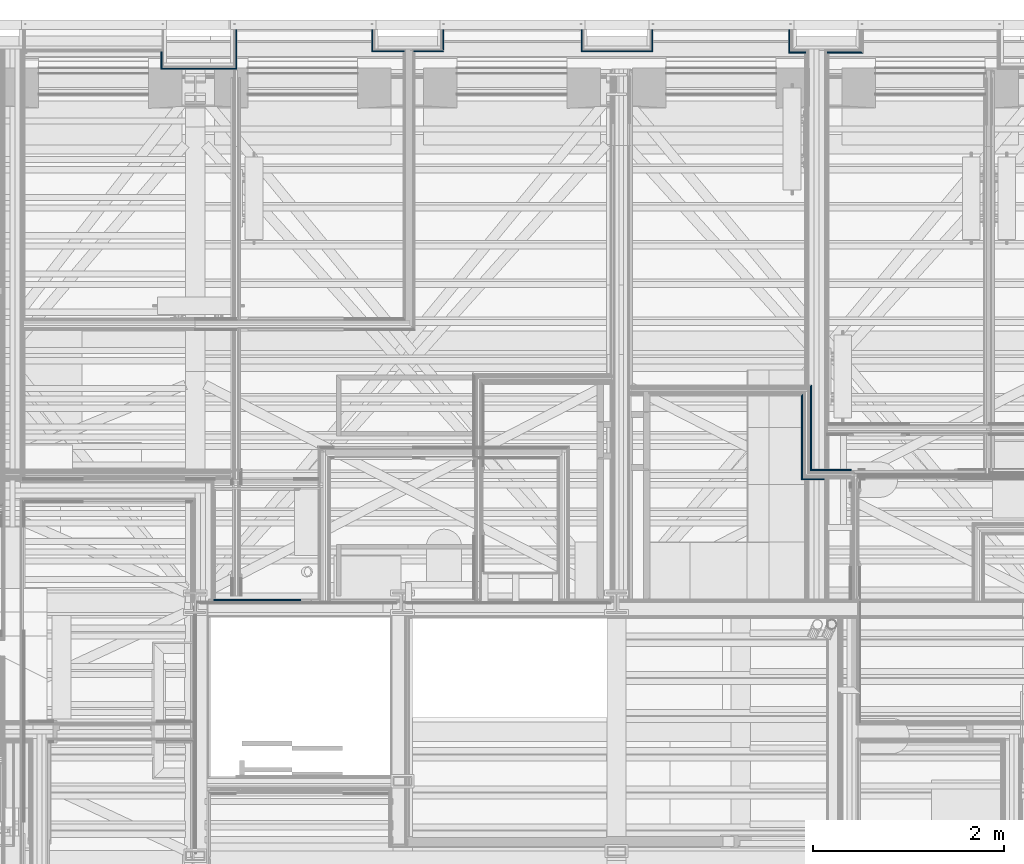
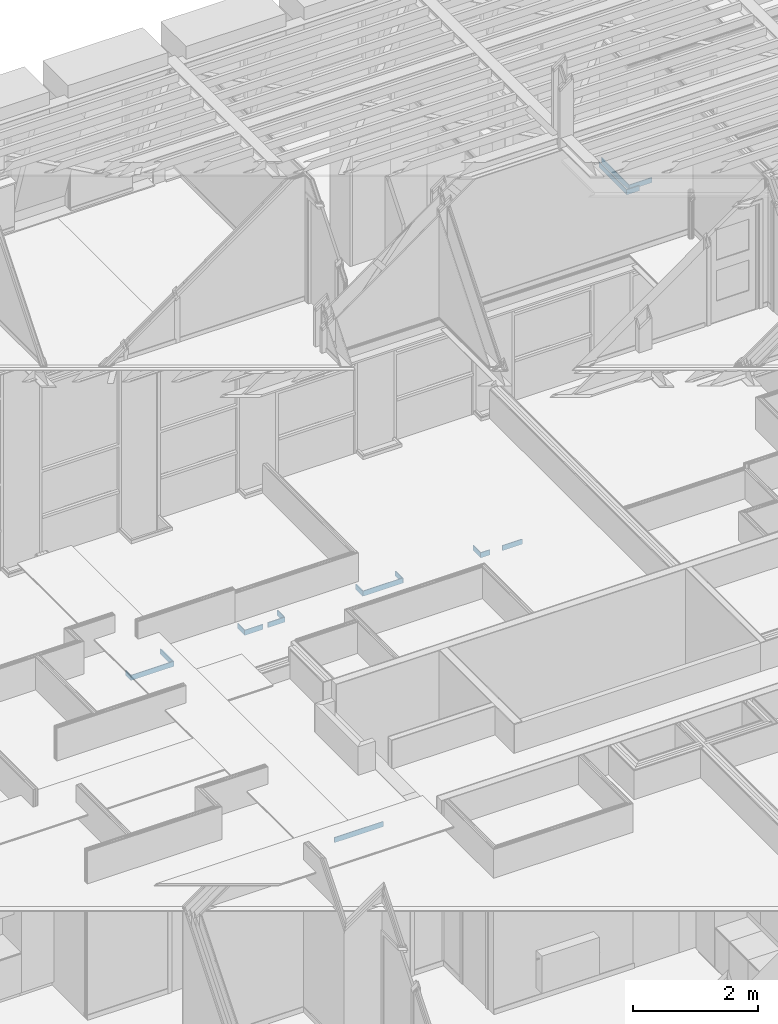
# One storey, part 74 of 183: 18 building element parts, 14 elements without a shape of their own.
"""IFC2X3 building model written with IfcOpenShell, lengths in metres."""

from ifc_helpers import new_model, entity, si_unit, converted_unit, derived_unit, money_unit, direction, frame, frame_2d, origin_with_axes, place, context, subcontext, project, spatial, polyline, rectangle, outline, extrude, material, type_object, element, aggregate, save


model = new_model("IFC2X3")

# Units and contexts
model_context = context("Model", 3, precision=1e-05, world=origin_with_axes(), true_north=direction((0.0, 1.0)))
body_context = subcontext(model_context, "Body", "Model", "MODEL_VIEW", scale=1.0)
ifc_project = project(units=[si_unit("LENGTHUNIT", "METRE"), si_unit("AREAUNIT", "SQUARE_METRE"), si_unit("VOLUMEUNIT", "CUBIC_METRE"), si_unit("ABSORBEDDOSEUNIT", "GRAY"), si_unit("AMOUNTOFSUBSTANCEUNIT", "MOLE"), si_unit("DOSEEQUIVALENTUNIT", "SIEVERT"), si_unit("ELECTRICCAPACITANCEUNIT", "FARAD"), si_unit("ELECTRICCHARGEUNIT", "COULOMB"), si_unit("ELECTRICCONDUCTANCEUNIT", "SIEMENS"), si_unit("ELECTRICCURRENTUNIT", "AMPERE"), si_unit("ELECTRICRESISTANCEUNIT", "OHM"), si_unit("ELECTRICVOLTAGEUNIT", "VOLT"), si_unit("ENERGYUNIT", "JOULE"), si_unit("FORCEUNIT", "NEWTON"), si_unit("FREQUENCYUNIT", "HERTZ"), si_unit("ILLUMINANCEUNIT", "LUX"), si_unit("INDUCTANCEUNIT", "HENRY"), si_unit("LUMINOUSFLUXUNIT", "LUMEN"), si_unit("LUMINOUSINTENSITYUNIT", "CANDELA"), si_unit("MAGNETICFLUXDENSITYUNIT", "TESLA"), si_unit("MAGNETICFLUXUNIT", "WEBER"), si_unit("MASSUNIT", "GRAM"), converted_unit("PLANEANGLEUNIT", "degree", entity("IfcReal", 0.0174532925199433), si_unit("PLANEANGLEUNIT", "RADIAN"), dimensions=[0, 0, 0, 0, 0, 0, 0]), si_unit("POWERUNIT", "WATT"), si_unit("PRESSUREUNIT", "PASCAL"), si_unit("RADIOACTIVITYUNIT", "BECQUEREL"), si_unit("SOLIDANGLEUNIT", "STERADIAN"), si_unit("THERMODYNAMICTEMPERATUREUNIT", "KELVIN"), si_unit("TIMEUNIT", "SECOND"), derived_unit("ACCELERATIONUNIT", [(si_unit("LENGTHUNIT", "METRE"), 1), (si_unit("TIMEUNIT", "SECOND"), -2)]), derived_unit("ANGULARVELOCITYUNIT", [(converted_unit("PLANEANGLEUNIT", "degree", entity("IfcReal", 0.0174532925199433), si_unit("PLANEANGLEUNIT", "RADIAN"), dimensions=[0, 0, 0, 0, 0, 0, 0]), 1), (si_unit("TIMEUNIT", "SECOND"), -1)]), derived_unit("CURVATUREUNIT", [(converted_unit("PLANEANGLEUNIT", "degree", entity("IfcReal", 0.0174532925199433), si_unit("PLANEANGLEUNIT", "RADIAN"), dimensions=[0, 0, 0, 0, 0, 0, 0]), 1), (si_unit("LENGTHUNIT", "METRE"), -1)]), derived_unit("DYNAMICVISCOSITYUNIT", [(si_unit("PRESSUREUNIT", "PASCAL"), 1), (si_unit("TIMEUNIT", "SECOND"), 1)]), derived_unit("HEATFLUXDENSITYUNIT", [(si_unit("POWERUNIT", "WATT"), 1), (si_unit("LENGTHUNIT", "METRE"), -2)]), derived_unit("HEATINGVALUEUNIT", [(si_unit("ENERGYUNIT", "JOULE"), 1), (si_unit("MASSUNIT", "GRAM"), -1)]), derived_unit("INTEGERCOUNTRATEUNIT", [(si_unit("TIMEUNIT", "SECOND"), -1)]), derived_unit("IONCONCENTRATIONUNIT", [(si_unit("MASSUNIT", "GRAM"), 1), (si_unit("VOLUMEUNIT", "CUBIC_METRE"), -1)]), derived_unit("ISOTHERMALMOISTURECAPACITYUNIT", [(si_unit("VOLUMEUNIT", "CUBIC_METRE"), 1), (si_unit("MASSUNIT", "GRAM"), -1)]), derived_unit("KINEMATICVISCOSITYUNIT", [(si_unit("AREAUNIT", "SQUARE_METRE"), 1), (si_unit("TIMEUNIT", "SECOND"), -1)]), derived_unit("LINEARFORCEUNIT", [(si_unit("FORCEUNIT", "NEWTON"), 1), (si_unit("LENGTHUNIT", "METRE"), -1)]), derived_unit("LINEARMOMENTUNIT", [(si_unit("FORCEUNIT", "NEWTON"), 1), (si_unit("LENGTHUNIT", "METRE"), -1)]), derived_unit("LINEARSTIFFNESSUNIT", [(si_unit("FORCEUNIT", "NEWTON"), 1), (si_unit("LENGTHUNIT", "METRE"), -1)]), derived_unit("LINEARVELOCITYUNIT", [(si_unit("LENGTHUNIT", "METRE"), 1), (si_unit("TIMEUNIT", "SECOND"), -1)]), derived_unit("LUMINOUSINTENSITYDISTRIBUTIONUNIT", [(si_unit("LUMINOUSINTENSITYUNIT", "CANDELA"), 1), (si_unit("LUMINOUSFLUXUNIT", "LUMEN"), -1)]), derived_unit("MASSDENSITYUNIT", [(si_unit("MASSUNIT", "GRAM"), 1), (si_unit("VOLUMEUNIT", "CUBIC_METRE"), -1)]), derived_unit("MASSFLOWRATEUNIT", [(si_unit("MASSUNIT", "GRAM"), 1), (si_unit("TIMEUNIT", "SECOND"), -1)]), derived_unit("MASSPERLENGTHUNIT", [(si_unit("MASSUNIT", "GRAM"), 1), (si_unit("LENGTHUNIT", "METRE"), -1)]), derived_unit("MODULUSOFELASTICITYUNIT", [(si_unit("FORCEUNIT", "NEWTON"), 1), (si_unit("AREAUNIT", "SQUARE_METRE"), -1)]), derived_unit("MODULUSOFLINEARSUBGRADEREACTIONUNIT", [(si_unit("FORCEUNIT", "NEWTON"), 1), (si_unit("LENGTHUNIT", "METRE"), -2)]), derived_unit("MODULUSOFROTATIONALSUBGRADEREACTIONUNIT", [(si_unit("FORCEUNIT", "NEWTON"), 1), (si_unit("LENGTHUNIT", "METRE"), 1)]), derived_unit("MODULUSOFSUBGRADEREACTIONUNIT", [(si_unit("FORCEUNIT", "NEWTON"), 1), (si_unit("VOLUMEUNIT", "CUBIC_METRE"), -1)]), derived_unit("MOISTUREDIFFUSIVITYUNIT", [(si_unit("VOLUMEUNIT", "CUBIC_METRE"), 1), (si_unit("TIMEUNIT", "SECOND"), -1)]), derived_unit("MOLECULARWEIGHTUNIT", [(si_unit("MASSUNIT", "GRAM"), 1), (si_unit("AMOUNTOFSUBSTANCEUNIT", "MOLE"), -1)]), derived_unit("PLANARFORCEUNIT", [(si_unit("FORCEUNIT", "NEWTON"), 1), (si_unit("LENGTHUNIT", "METRE"), -2)]), derived_unit("ROTATIONALFREQUENCYUNIT", [(si_unit("TIMEUNIT", "SECOND"), -1)]), derived_unit("ROTATIONALMASSUNIT", [(si_unit("MASSUNIT", "GRAM"), 1), (si_unit("LENGTHUNIT", "METRE"), 2)]), derived_unit("ROTATIONALSTIFFNESSUNIT", [(si_unit("FORCEUNIT", "NEWTON"), 1), (si_unit("LENGTHUNIT", "METRE"), 1), (converted_unit("PLANEANGLEUNIT", "degree", entity("IfcReal", 0.0174532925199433), si_unit("PLANEANGLEUNIT", "RADIAN"), dimensions=[0, 0, 0, 0, 0, 0, 0]), -1)]), derived_unit("SECTIONAREAINTEGRALUNIT", [(si_unit("LENGTHUNIT", "METRE"), 5)]), derived_unit("SECTIONMODULUSUNIT", [(si_unit("LENGTHUNIT", "METRE"), 3)]), derived_unit("SHEARMODULUSUNIT", [(si_unit("FORCEUNIT", "NEWTON"), 1), (si_unit("AREAUNIT", "SQUARE_METRE"), -1)]), derived_unit("SOUNDPOWERUNIT", [(si_unit("ENERGYUNIT", "JOULE"), 1), (si_unit("TIMEUNIT", "SECOND"), -1)]), derived_unit("SPECIFICHEATCAPACITYUNIT", [(si_unit("FORCEUNIT", "NEWTON"), 1), (si_unit("MASSUNIT", "GRAM"), -1), (si_unit("THERMODYNAMICTEMPERATUREUNIT", "KELVIN"), -1)]), derived_unit("TEMPERATUREGRADIENTUNIT", [(si_unit("THERMODYNAMICTEMPERATUREUNIT", "KELVIN"), 1), (si_unit("LENGTHUNIT", "METRE"), -1)]), derived_unit("THERMALADMITTANCEUNIT", [(si_unit("POWERUNIT", "WATT"), 1), (si_unit("AREAUNIT", "SQUARE_METRE"), -1), (si_unit("THERMODYNAMICTEMPERATUREUNIT", "KELVIN"), -1)]), derived_unit("THERMALCONDUCTANCEUNIT", [(si_unit("POWERUNIT", "WATT"), 1), (si_unit("LENGTHUNIT", "METRE"), -1), (si_unit("THERMODYNAMICTEMPERATUREUNIT", "KELVIN"), -1)]), derived_unit("THERMALEXPANSIONCOEFFICIENTUNIT", [(si_unit("THERMODYNAMICTEMPERATUREUNIT", "KELVIN"), -1)]), derived_unit("THERMALRESISTANCEUNIT", [(si_unit("AREAUNIT", "SQUARE_METRE"), 1), (si_unit("POWERUNIT", "WATT"), -1)]), derived_unit("THERMALTRANSMITTANCEUNIT", [(si_unit("POWERUNIT", "WATT"), 1), (si_unit("AREAUNIT", "SQUARE_METRE"), -1), (si_unit("THERMODYNAMICTEMPERATUREUNIT", "KELVIN"), -1)]), derived_unit("TORQUEUNIT", [(si_unit("FORCEUNIT", "NEWTON"), 1), (si_unit("LENGTHUNIT", "METRE"), 1)]), derived_unit("VAPORPERMEABILITYUNIT", [(si_unit("MASSUNIT", "GRAM"), 1), (si_unit("TIMEUNIT", "SECOND"), -1)]), derived_unit("VOLUMETRICFLOWRATEUNIT", [(si_unit("VOLUMEUNIT", "CUBIC_METRE"), 1), (si_unit("TIMEUNIT", "SECOND"), -1)]), derived_unit("WARPINGCONSTANTUNIT", [(si_unit("LENGTHUNIT", "METRE"), 6)]), derived_unit("WARPINGMOMENTUNIT", [(si_unit("FORCEUNIT", "NEWTON"), 1), (si_unit("LENGTHUNIT", "METRE"), 2)]), money_unit("GBP")], contexts=[model_context])

# Site, building, storey
site_placement = place(None, origin_with_axes())
site = spatial("IfcSite", under=ifc_project, at=site_placement, Name="Site", CompositionType="ELEMENT")
building_placement = place(site_placement, origin_with_axes())
building = spatial("IfcBuilding", under=site, at=building_placement, Name="Building01", CompositionType="ELEMENT")
storey_placement = place(building_placement, frame((0.0, 0.0, 5.15), z_axis=(0.0, 0.0, 1.0), x_axis=(1.0, 0.0, 0.0)))
storey = spatial("IfcBuildingStorey", under=building, at=storey_placement, Name="1F", CompositionType="ELEMENT", Elevation=5.15)

# Wall, building element part
wall_type_1 = type_object("IfcWallType", Name="SHE_A-Walls_Type03a_BlockworkWall_170mm", PredefinedType="NOTDEFINED")
wall_1_placement = place(storey_placement, frame((17.75, 8.805, 0.0), z_axis=(0.0, 0.0, 1.0), x_axis=(-1.0, 0.0, 0.0)))
wall_1 = element("IfcWall", 1, at=wall_1_placement, inside=storey, type_object=wall_type_1, Name="4B", ObjectType="SHE_A-Walls_Type03a_BlockworkWall_170mm")
ifc_material = material(Name="A_BSUK_Walls_Timber")
building_element_part_1_placement = place(wall_1_placement, origin_with_axes())
building_element_part_1 = element("IfcBuildingElementPart", 2, at=building_element_part_1_placement, material=ifc_material, Name="4", context=body_context, shape_type="SweptSolid", body=[
    extrude(rectangle(XDim=0.908871, YDim=0.015, at=frame_2d((8.010565, -0.0225), x_axis=(-1.0, 0.0))), frame((0.0, 0.0, 0.015), z_axis=(0.0, 0.0, 1.0), x_axis=(1.0, 0.0, 0.0)), (0.0, 0.0, 1.0), 0.1),
])
aggregate(wall_1, [building_element_part_1])

wall_type_2 = type_object("IfcWallType", Name="SHE_A-Walls_Type06f_ExternalWallInsulation_48+15mm", PredefinedType="NOTDEFINED")
wall_2_placement = place(storey_placement, frame((15.365, 14.612, 0.0), z_axis=(0.0, 0.0, 1.0), x_axis=(0.0, 1.0, 0.0)))
wall_2 = element("IfcWall", 3, at=wall_2_placement, inside=storey, type_object=wall_type_2, Name="6F", ObjectType="SHE_A-Walls_Type06f_ExternalWallInsulation_48+15mm")
building_element_part_2_placement = place(wall_2_placement, origin_with_axes())
building_element_part_2 = element("IfcBuildingElementPart", 4, at=building_element_part_2_placement, material=ifc_material, Name="4", context=body_context, shape_type="SweptSolid", body=[
    extrude(outline(polyline([(-0.06, 0.06), (-0.045, 0.045), (0.188, 0.045), (0.188, 0.06), (-0.06, 0.06)])), frame((0.0, 0.0, 0.015), z_axis=(0.0, 0.0, 1.0), x_axis=(1.0, 0.0, 0.0)), (0.0, 0.0, 1.0), 0.1),
])
aggregate(wall_2, [building_element_part_2])

# Wall, building element parts
wall_3_placement = place(storey_placement, frame((16.025, 14.612, 0.0), z_axis=(0.0, 0.0, 1.0), x_axis=(-1.0, 0.0, 0.0)))
wall_3 = element("IfcWall", 5, at=wall_3_placement, inside=storey, type_object=wall_type_2, Name="6F", ObjectType="SHE_A-Walls_Type06f_ExternalWallInsulation_48+15mm")
placement_1 = place(wall_3_placement, origin_with_axes())
building_element_part_3 = element("IfcBuildingElementPart", 6, at=placement_1, material=ifc_material, Name="6", context=body_context, shape_type="SweptSolid", body=[
    extrude(outline(polyline([(-0.06, 0.06), (-0.045, 0.045), (0.316868, 0.045), (0.316868, 0.06), (-0.06, 0.06)])), frame((0.0, 0.0, 0.015), z_axis=(0.0, 0.0, 1.0), x_axis=(1.0, 0.0, 0.0)), (0.0, 0.0, 1.0), 0.1),
])
building_element_part_4 = element("IfcBuildingElementPart", 7, at=placement_1, material=ifc_material, Name="7", context=body_context, shape_type="SweptSolid", body=[
    extrude(outline(polyline([(0.72, 0.06), (0.541868, 0.06), (0.541868, 0.045), (0.705, 0.045), (0.72, 0.06)])), frame((0.0, 0.0, 0.015), z_axis=(0.0, 0.0, 1.0), x_axis=(1.0, 0.0, 0.0)), (0.0, 0.0, 1.0), 0.1),
])
aggregate(wall_3, [building_element_part_3, building_element_part_4])

# Wall, building element part
wall_type_3 = type_object("IfcWallType", Name="SHE_A-Walls_Type06d_ExternalWallInsulation_48mm", PredefinedType="NOTDEFINED")
wall_4_placement = place(storey_placement, frame((13.817, 14.8, 0.0), z_axis=(0.0, 0.0, 1.0), x_axis=(0.0, -1.0, 0.0)))
wall_4 = element("IfcWall", 8, at=wall_4_placement, inside=storey, type_object=wall_type_3, Name="6D", ObjectType="SHE_A-Walls_Type06d_ExternalWallInsulation_48mm")
building_element_part_5_placement = place(wall_4_placement, origin_with_axes())
building_element_part_5 = element("IfcBuildingElementPart", 9, at=building_element_part_5_placement, material=ifc_material, Name="3", context=body_context, shape_type="SweptSolid", body=[
    extrude(outline(polyline([(0.233, 0.063), (0.0, 0.063), (0.0, 0.048), (0.218, 0.048), (0.233, 0.063)])), frame((0.0, 0.0, 0.015), z_axis=(0.0, 0.0, 1.0), x_axis=(1.0, 0.0, 0.0)), (0.0, 0.0, 1.0), 0.1),
])
aggregate(wall_4, [building_element_part_5])

wall_5_placement = place(storey_placement, frame((13.853, 14.63, 0.0), z_axis=(0.0, 0.0, 1.0), x_axis=(-1.0, 0.0, 0.0)))
wall_5 = element("IfcWall", 10, at=wall_5_placement, inside=storey, type_object=wall_type_3, Name="6D", ObjectType="SHE_A-Walls_Type06d_ExternalWallInsulation_48mm")
building_element_part_6_placement = place(wall_5_placement, origin_with_axes())
building_element_part_6 = element("IfcBuildingElementPart", 11, at=building_element_part_6_placement, material=ifc_material, Name="3", context=body_context, shape_type="SweptSolid", body=[
    extrude(outline(polyline([(0.723, 0.063), (-0.027, 0.063), (-0.012, 0.048), (0.708, 0.048), (0.723, 0.063)])), frame((0.0, 0.0, 0.015), z_axis=(0.0, 0.0, 1.0), x_axis=(1.0, 0.0, 0.0)), (0.0, 0.0, 1.0), 0.1),
])
aggregate(wall_5, [building_element_part_6])

wall_6_placement = place(storey_placement, frame((13.193, 14.63, 0.0), z_axis=(0.0, 0.0, 1.0), x_axis=(0.0, 1.0, 0.0)))
wall_6 = element("IfcWall", 12, at=wall_6_placement, inside=storey, type_object=wall_type_3, Name="6D", ObjectType="SHE_A-Walls_Type06d_ExternalWallInsulation_48mm")
building_element_part_7_placement = place(wall_6_placement, origin_with_axes())
building_element_part_7 = element("IfcBuildingElementPart", 13, at=building_element_part_7_placement, material=ifc_material, Name="3", context=body_context, shape_type="SweptSolid", body=[
    extrude(outline(polyline([(0.17, 0.063), (-0.063, 0.063), (-0.048, 0.048), (0.17, 0.048), (0.17, 0.063)])), frame((0.0, 0.0, 0.015), z_axis=(0.0, 0.0, 1.0), x_axis=(1.0, 0.0, 0.0)), (0.0, 0.0, 1.0), 0.1),
])
aggregate(wall_6, [building_element_part_7])

wall_7_placement = place(storey_placement, frame((11.627, 14.8, 0.0), z_axis=(0.0, 0.0, 1.0), x_axis=(0.0, -1.0, 0.0)))
wall_7 = element("IfcWall", 14, at=wall_7_placement, inside=storey, type_object=wall_type_3, Name="6D", ObjectType="SHE_A-Walls_Type06d_ExternalWallInsulation_48mm")
building_element_part_8_placement = place(wall_7_placement, origin_with_axes())
building_element_part_8 = element("IfcBuildingElementPart", 15, at=building_element_part_8_placement, material=ifc_material, Name="3", context=body_context, shape_type="SweptSolid", body=[
    extrude(outline(polyline([(0.218, 0.063), (0.0, 0.063), (0.0, 0.048), (0.203, 0.048), (0.218, 0.063)])), frame((0.0, 0.0, 0.015), z_axis=(0.0, 0.0, 1.0), x_axis=(1.0, 0.0, 0.0)), (0.0, 0.0, 1.0), 0.1),
])
aggregate(wall_7, [building_element_part_8])

# Wall, building element parts
wall_8_placement = place(storey_placement, frame((11.663, 14.63, 0.0), z_axis=(0.0, 0.0, 1.0), x_axis=(-1.0, 0.0, 0.0)))
wall_8 = element("IfcWall", 16, at=wall_8_placement, inside=storey, type_object=wall_type_3, Name="6D", ObjectType="SHE_A-Walls_Type06d_ExternalWallInsulation_48mm")
placement_2 = place(wall_8_placement, origin_with_axes())
building_element_part_9 = element("IfcBuildingElementPart", 17, at=placement_2, material=ifc_material, Name="4", context=body_context, shape_type="SweptSolid", body=[
    extrude(outline(polyline([(0.288, 0.063), (-0.027, 0.063), (-0.012, 0.048), (0.288, 0.048), (0.288, 0.063)])), frame((0.0, 0.0, 0.015), z_axis=(0.0, 0.0, 1.0), x_axis=(1.0, 0.0, 0.0)), (0.0, 0.0, 1.0), 0.1),
])
building_element_part_10 = element("IfcBuildingElementPart", 18, at=placement_2, material=ifc_material, Name="5", context=body_context, shape_type="SweptSolid", body=[
    extrude(outline(polyline([(0.723, 0.063), (0.383, 0.063), (0.383, 0.048), (0.708, 0.048), (0.723, 0.063)])), frame((0.0, 0.0, 0.015), z_axis=(0.0, 0.0, 1.0), x_axis=(1.0, 0.0, 0.0)), (0.0, 0.0, 1.0), 0.1),
])
aggregate(wall_8, [building_element_part_9, building_element_part_10])

# Wall, building element part
wall_9_placement = place(storey_placement, frame((11.003, 14.8, 0.0), z_axis=(0.0, 0.0, 1.0), x_axis=(0.0, -1.0, 0.0)))
wall_9 = element("IfcWall", 19, at=wall_9_placement, inside=storey, type_object=wall_type_3, Name="6D", ObjectType="SHE_A-Walls_Type06d_ExternalWallInsulation_48mm")
building_element_part_11_placement = place(wall_9_placement, origin_with_axes())
building_element_part_11 = element("IfcBuildingElementPart", 20, at=building_element_part_11_placement, material=ifc_material, Name="1", context=body_context, shape_type="SweptSolid", body=[
    extrude(outline(polyline([(0.218, -0.048), (0.0, -0.048), (0.0, -0.063), (0.233, -0.063), (0.218, -0.048)])), frame((0.0, 0.0, 0.015), z_axis=(0.0, 0.0, 1.0), x_axis=(1.0, 0.0, 0.0)), (0.0, 0.0, 1.0), 0.1),
])
aggregate(wall_9, [building_element_part_11])

wall_10_placement = place(storey_placement, frame((9.46, 14.8, 0.0), z_axis=(0.0, 0.0, 1.0), x_axis=(0.0, -1.0, 0.0)))
wall_10 = element("IfcWall", 21, at=wall_10_placement, inside=storey, type_object=wall_type_3, Name="6D", ObjectType="SHE_A-Walls_Type06d_ExternalWallInsulation_48mm")
building_element_part_12_placement = place(wall_10_placement, origin_with_axes())
building_element_part_12 = element("IfcBuildingElementPart", 22, at=building_element_part_12_placement, material=ifc_material, Name="3", context=body_context, shape_type="SweptSolid", body=[
    extrude(outline(polyline([(0.413, 0.063), (0.0, 0.063), (0.0, 0.048), (0.398, 0.048), (0.413, 0.063)])), frame((0.0, 0.0, 0.015), z_axis=(0.0, 0.0, 1.0), x_axis=(1.0, 0.0, 0.0)), (0.0, 0.0, 1.0), 0.1),
])
aggregate(wall_10, [building_element_part_12])

wall_11_placement = place(storey_placement, frame((9.496, 14.45, 0.0), z_axis=(0.0, 0.0, 1.0), x_axis=(-1.0, 0.0, 0.0)))
wall_11 = element("IfcWall", 23, at=wall_11_placement, inside=storey, type_object=wall_type_3, Name="6D", ObjectType="SHE_A-Walls_Type06d_ExternalWallInsulation_48mm")
building_element_part_13_placement = place(wall_11_placement, origin_with_axes())
building_element_part_13 = element("IfcBuildingElementPart", 24, at=building_element_part_13_placement, material=ifc_material, Name="3", context=body_context, shape_type="SweptSolid", body=[
    extrude(outline(polyline([(0.769, 0.063), (-0.027, 0.063), (-0.012, 0.048), (0.754, 0.048), (0.769, 0.063)])), frame((0.0, 0.0, 0.015), z_axis=(0.0, 0.0, 1.0), x_axis=(1.0, 0.0, 0.0)), (0.0, 0.0, 1.0), 0.1),
])
aggregate(wall_11, [building_element_part_13])

wall_12_placement = place(storey_placement, frame((8.79, 14.45, 0.0), z_axis=(0.0, 0.0, 1.0), x_axis=(0.0, 1.0, 0.0)))
wall_12 = element("IfcWall", 25, at=wall_12_placement, inside=storey, type_object=wall_type_3, Name="6D", ObjectType="SHE_A-Walls_Type06d_ExternalWallInsulation_48mm")
building_element_part_14_placement = place(wall_12_placement, origin_with_axes())
building_element_part_14 = element("IfcBuildingElementPart", 26, at=building_element_part_14_placement, material=ifc_material, Name="3", context=body_context, shape_type="SweptSolid", body=[
    extrude(outline(polyline([(0.117, 0.063), (-0.063, 0.063), (-0.048, 0.048), (0.117, 0.048), (0.117, 0.063)])), frame((0.0, 0.0, 0.015), z_axis=(0.0, 0.0, 1.0), x_axis=(1.0, 0.0, 0.0)), (0.0, 0.0, 1.0), 0.1),
])
aggregate(wall_12, [building_element_part_14])

# Wall, building element parts
wall_type_4 = type_object("IfcWallType", Name="SHE_A-Walls_Type05b_Partition_80mm", PredefinedType="NOTDEFINED")
wall_13_placement = place(storey_placement, frame((15.476998, 10.126939, 9.78), z_axis=(0.0, 0.0, 1.0), x_axis=(1.0, 0.0, 0.0)))
wall_13 = element("IfcWall", 27, at=wall_13_placement, inside=storey, type_object=wall_type_4, Name="5B", ObjectType="SHE_A-Walls_Type05b_Partition_80mm")
placement_3 = place(wall_13_placement, origin_with_axes())
building_element_part_15 = element("IfcBuildingElementPart", 28, at=placement_3, material=ifc_material, Name="1", context=body_context, shape_type="SweptSolid", body=[
    extrude(outline(polyline([(-0.027, -0.027), (-0.042, -0.042), (0.19638, -0.042), (0.19638, -0.027), (-0.027, -0.027)])), frame((0.0, 0.0, 0.015), z_axis=(0.0, 0.0, 1.0), x_axis=(1.0, 0.0, 0.0)), (0.0, 0.0, 1.0), 0.1),
])
building_element_part_16 = element("IfcBuildingElementPart", 29, at=placement_3, material=ifc_material, Name="7", context=body_context, shape_type="SweptSolid", body=[
    extrude(outline(polyline([(0.481442, 0.068), (0.068, 0.068), (0.053, 0.053), (0.481442, 0.053), (0.481442, 0.068)])), frame((0.0, 0.0, 0.015), z_axis=(0.0, 0.0, 1.0), x_axis=(1.0, 0.0, 0.0)), (0.0, 0.0, 1.0), 0.1),
])
aggregate(wall_13, [building_element_part_15, building_element_part_16])

wall_14_placement = place(storey_placement, frame((15.476998, 11.011789, 9.78), z_axis=(0.0, 0.0, 1.0), x_axis=(0.0, -1.0, 0.0)))
wall_14 = element("IfcWall", 30, at=wall_14_placement, inside=storey, type_object=wall_type_4, Name="5B", ObjectType="SHE_A-Walls_Type05b_Partition_80mm")
placement_4 = place(wall_14_placement, origin_with_axes())
building_element_part_17 = element("IfcBuildingElementPart", 31, at=placement_4, material=ifc_material, Name="1", context=body_context, shape_type="SweptSolid", body=[
    extrude(outline(polyline([(0.911849, -0.027), (0.028, -0.027), (0.043, -0.042), (0.926849, -0.042), (0.911849, -0.027)])), frame((0.0, 0.0, 0.015), z_axis=(0.0, 0.0, 1.0), x_axis=(1.0, 0.0, 0.0)), (0.0, 0.0, 1.0), 0.1),
])
building_element_part_18 = element("IfcBuildingElementPart", 32, at=placement_4, material=ifc_material, Name="7", context=body_context, shape_type="SweptSolid", body=[
    extrude(outline(polyline([(0.816849, 0.068), (-0.067, 0.068), (-0.052, 0.053), (0.831849, 0.053), (0.816849, 0.068)])), frame((0.0, 0.0, 0.015), z_axis=(0.0, 0.0, 1.0), x_axis=(1.0, 0.0, 0.0)), (0.0, 0.0, 1.0), 0.1),
])
aggregate(wall_14, [building_element_part_17, building_element_part_18])

save(model, "model.ifc")
